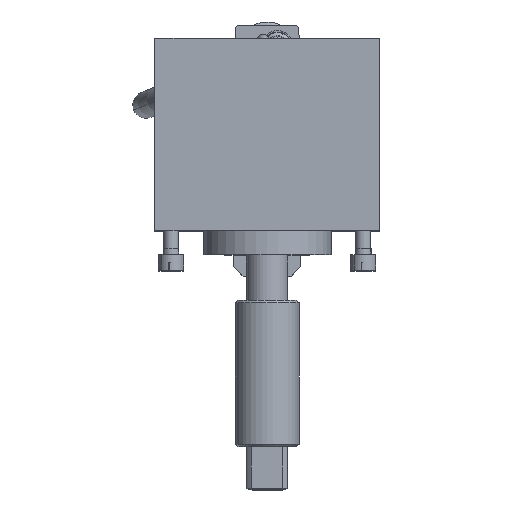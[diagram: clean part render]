
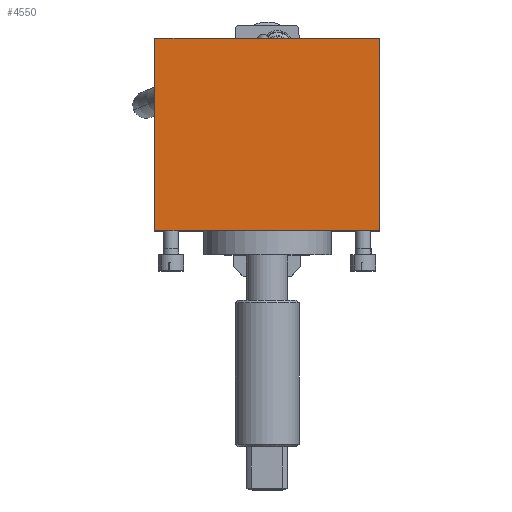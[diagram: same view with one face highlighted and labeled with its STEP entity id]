
A CAD part, top view. The second image highlights one B-rep face of the part: STEP entity #4550.
In plain terms, the highlighted planar face has unit normal (0, 0, 1).
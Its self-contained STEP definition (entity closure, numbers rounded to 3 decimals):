
#4532=AXIS2_PLACEMENT_3D('Plane Axis2P3D',#4529,#4530,#4531) ;
#3757=CARTESIAN_POINT('Vertex',(-70.,-45.,630.3)) ;
#3773=CARTESIAN_POINT('Vertex',(70.,-45.,630.3)) ;
#3776=CARTESIAN_POINT('Line Origine',(0.,-45.,630.3)) ;
#4473=CARTESIAN_POINT('Vertex',(-70.,75.2,630.3)) ;
#4476=CARTESIAN_POINT('Line Origine',(0.,75.2,630.3)) ;
#4480=CARTESIAN_POINT('Vertex',(70.,75.2,630.3)) ;
#4529=CARTESIAN_POINT('Axis2P3D Location',(0.,-45.,630.3)) ;
#4534=CARTESIAN_POINT('Line Origine',(-70.,15.1,630.3)) ;
#4539=CARTESIAN_POINT('Line Origine',(70.,15.1,630.3)) ;
#3777=DIRECTION('Vector Direction',(-1.,0.,0.)) ;
#4477=DIRECTION('Vector Direction',(-1.,0.,0.)) ;
#4530=DIRECTION('Axis2P3D Direction',(0.,0.,1.)) ;
#4531=DIRECTION('Axis2P3D XDirection',(0.,1.,0.)) ;
#4535=DIRECTION('Vector Direction',(0.,1.,0.)) ;
#4540=DIRECTION('Vector Direction',(0.,1.,0.)) ;
#3778=VECTOR('Line Direction',#3777,1.) ;
#4478=VECTOR('Line Direction',#4477,1.) ;
#4536=VECTOR('Line Direction',#4535,1.) ;
#4541=VECTOR('Line Direction',#4540,1.) ;
#4545=ORIENTED_EDGE('',*,*,#4538,.T.) ;
#4546=ORIENTED_EDGE('',*,*,#3780,.F.) ;
#4547=ORIENTED_EDGE('',*,*,#4543,.F.) ;
#4548=ORIENTED_EDGE('',*,*,#4482,.T.) ;
#4550=ADVANCED_FACE('AWD-325-700.1\\AWD325-700.1\\Hauptk\X2\00F6\X0\rper',(#4549),#4533,.T.) ;
#3780=EDGE_CURVE('',#3774,#3758,#3779,.T.) ;
#4482=EDGE_CURVE('',#4481,#4474,#4479,.T.) ;
#4538=EDGE_CURVE('',#4474,#3758,#4537,.F.) ;
#4543=EDGE_CURVE('',#4481,#3774,#4542,.F.) ;
#4544=EDGE_LOOP('',(#4545,#4546,#4547,#4548)) ;
#4549=FACE_OUTER_BOUND('',#4544,.T.) ;
#3779=LINE('Line',#3776,#3778) ;
#4479=LINE('Line',#4476,#4478) ;
#4537=LINE('Line',#4534,#4536) ;
#4542=LINE('Line',#4539,#4541) ;
#4533=PLANE('Plane',#4532) ;
#3758=VERTEX_POINT('',#3757) ;
#3774=VERTEX_POINT('',#3773) ;
#4474=VERTEX_POINT('',#4473) ;
#4481=VERTEX_POINT('',#4480) ;
